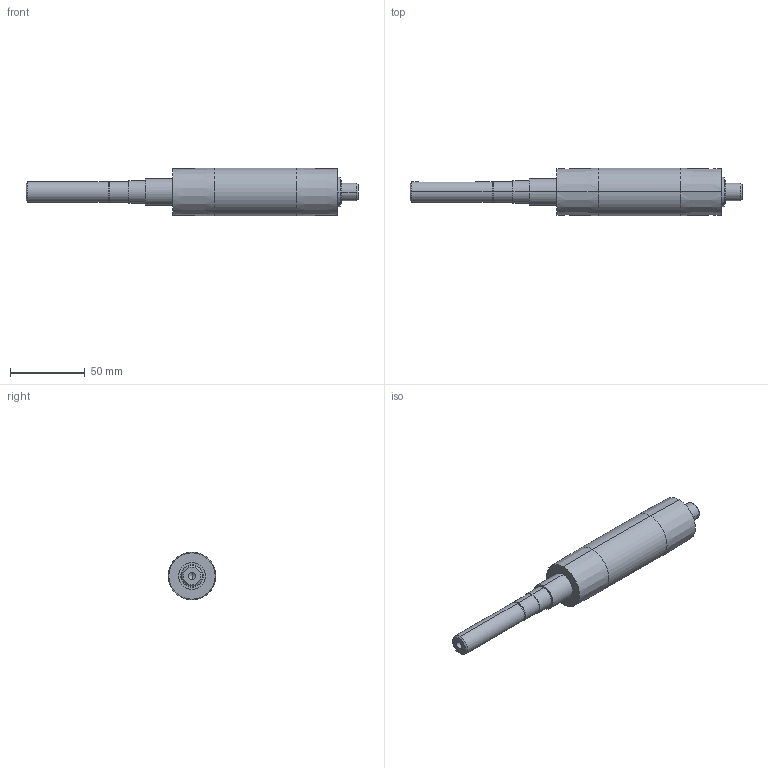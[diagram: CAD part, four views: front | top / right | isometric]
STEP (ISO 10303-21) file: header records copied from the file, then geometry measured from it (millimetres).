
FILE_DESCRIPTION (( 'STEP AP214' ), '1' );
FILE_NAME ('084.030.214.STEP', '2021-02-05T15:55:33', ( '' ), ( '' ), 'SwSTEP 2.0', 'SolidWorks 2018', '' );
FILE_SCHEMA (( 'AUTOMOTIVE_DESIGN' ));
Length unit declared in the file: millimetre
Products named in the file (1): 084.030.214
Bounding box: 222.5 x 32 x 32 mm (x, y, z)
Volume: 105391.5 mm3; surface area: 18192.6 mm2
Topology: 1 solids, 1 shells, 45 faces, 92 edges, 57 vertices
Faces by surface type: cylinder 22, plane 13, cone 10
Entity records: 1296 total; most frequent: CARTESIAN_POINT 255, DIRECTION 230, ORIENTED_EDGE 180, AXIS2_PLACEMENT_3D 96, EDGE_CURVE 90, VERTEX_POINT 57, EDGE_LOOP 55, CIRCLE 50
